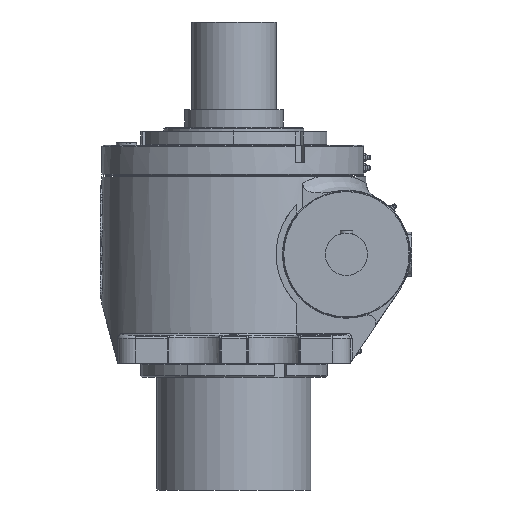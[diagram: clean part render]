
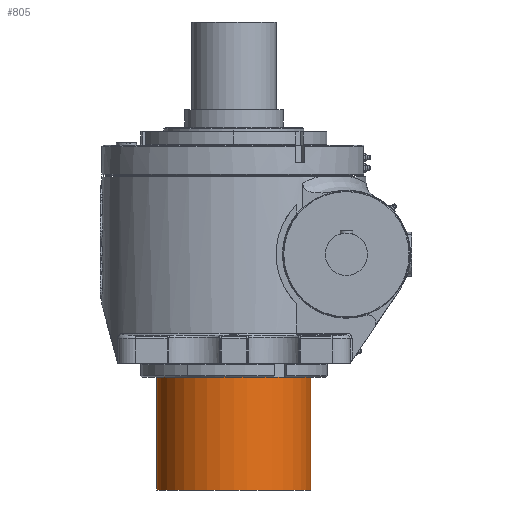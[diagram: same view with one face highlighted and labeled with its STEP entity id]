
A CAD part, front view. The second image highlights one B-rep face of the part: STEP entity #805.
In plain terms, the highlighted cylindrical face has radius 109.5 mm (diameter 219 mm), a partial arc.
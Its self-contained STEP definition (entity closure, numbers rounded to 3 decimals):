
#805=ADVANCED_FACE('',(#2284),#2285,.T.);
#2284=FACE_OUTER_BOUND('',#5391,.T.);
#2285=CYLINDRICAL_SURFACE('',#5392,109.5);
#5391=EDGE_LOOP('',(#11142,#11143,#11144,#11145));
#5392=AXIS2_PLACEMENT_3D('',#11146,#11147,#11148);
#11142=ORIENTED_EDGE('',*,*,#13050,.T.);
#11143=ORIENTED_EDGE('',*,*,#13054,.F.);
#11144=ORIENTED_EDGE('',*,*,#13052,.T.);
#11145=ORIENTED_EDGE('',*,*,#13055,.F.);
#11146=CARTESIAN_POINT('',(0.,0.,-90.0));
#11147=DIRECTION('',(0.,0.,-1.0));
#11148=DIRECTION('',(-1.0,0.,0.0));
#13050=EDGE_CURVE('',#16164,#16165,#16166,.T.);
#13052=EDGE_CURVE('',#16169,#16167,#16170,.T.);
#13054=EDGE_CURVE('',#16169,#16165,#16172,.T.);
#13055=EDGE_CURVE('',#16164,#16167,#16173,.T.);
#16164=VERTEX_POINT('',#24510);
#16165=VERTEX_POINT('',#24511);
#16166=LINE('',#24512,#24513);
#16167=VERTEX_POINT('',#24514);
#16169=VERTEX_POINT('',#24516);
#16170=LINE('',#24517,#24518);
#16172=CIRCLE('',#24520,109.5);
#16173=CIRCLE('',#24521,109.5);
#24510=CARTESIAN_POINT('',(-109.5,0.,0.0));
#24511=CARTESIAN_POINT('',(-109.5,0.,-180.0));
#24512=CARTESIAN_POINT('',(-109.5,0.,-90.0));
#24513=VECTOR('',#27586,1.0);
#24514=CARTESIAN_POINT('',(109.5,0.,0.));
#24516=CARTESIAN_POINT('',(109.5,0.,-180.0));
#24517=CARTESIAN_POINT('',(109.5,0.,-90.0));
#24518=VECTOR('',#27590,1.0);
#24520=AXIS2_PLACEMENT_3D('',#27594,#27595,#27596);
#24521=AXIS2_PLACEMENT_3D('',#27597,#27598,#27599);
#27586=DIRECTION('',(0.,0.,-1.0));
#27590=DIRECTION('',(0.,0.,1.0));
#27594=CARTESIAN_POINT('',(0.,0.,-180.0));
#27595=DIRECTION('',(0.,0.,-1.0));
#27596=DIRECTION('',(-1.0,0.,0.0));
#27597=CARTESIAN_POINT('',(0.0,0.0,0.0));
#27598=DIRECTION('',(0.,0.,1.0));
#27599=DIRECTION('',(-1.0,0.,0.0));
